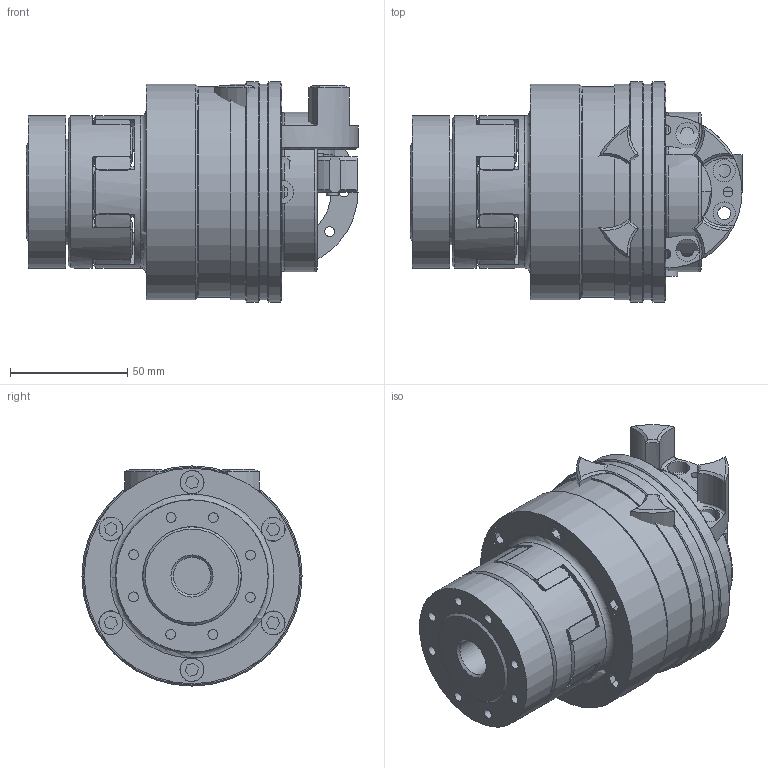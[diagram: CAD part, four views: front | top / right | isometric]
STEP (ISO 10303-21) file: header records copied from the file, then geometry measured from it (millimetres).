
FILE_DESCRIPTION( ( 'Unknown' ), '1' );
FILE_NAME( 'C:/Dokumente und Einstellungen/Sven/Desktop/hp kbk/E-AI/KBK EAI-28-124.stp', 'Unknown', ( 'Unknown' ), ( 'Unknown' ), 'XStep 1.0', 'Unknown', ' ' );
FILE_SCHEMA( ( 'automotive_design' ) );
Length unit declared in the file: millimetre
Products named in the file (19): Assem1; Assem2; Assem3; Assem4; ball_bearing_-_6008_0_01; ball_bearing_-_6008_0_02; ball_bearing_-_6008_0_03; Zylinderschraube DIN 912_4; KBK L-I-80 Grundkörper; Konusbuchse 80; Stellring 80; Druckring 80; Flansch 80; a_40; din_en_24017_m6x25; Elastomerflansch 28; Zahnkranz EK28_Standard; KBE 3 C - 28_Nabe; KBE3-28_Druckring
Bounding box: 141.75 x 94 x 94 mm (x, y, z)
Volume: 888150.3 mm3; surface area: 346698.6 mm2
Topology: 44 solids, 44 shells, 1107 faces, 2564 edges, 1664 vertices
Faces by surface type: plane 389, cylinder 386, cone 278, torus 54
Full cylindrical faces by diameter (mm): 2.5 x4, 3.242 x6, 4.2 x24, 4.917 x30, 5 x24, 5.2 x6, 5.5 x16, 6 x15, 6.2 x12, 6.6 x12, 8.8 x7, 9.5 x16, 10 x8, 10.2 x12, 16 x2, 30 x10, 37.5 x2, 39 x2, 40 x7, 41 x2, 45 x2, 49.2 x6, 59.1 x6, 59.5 x2, 61 x2, 62 x4, 65 x6, 68 x7, 70 x2, 85 x2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
Entity records: 13476 total; most frequent: CARTESIAN_POINT 2839, DIRECTION 2200, ORIENTED_EDGE 1648, AXIS2_PLACEMENT_3D 1027, EDGE_CURVE 824, EDGE_LOOP 770, VERTEX_POINT 622, FACE_OUTER_BOUND 581
